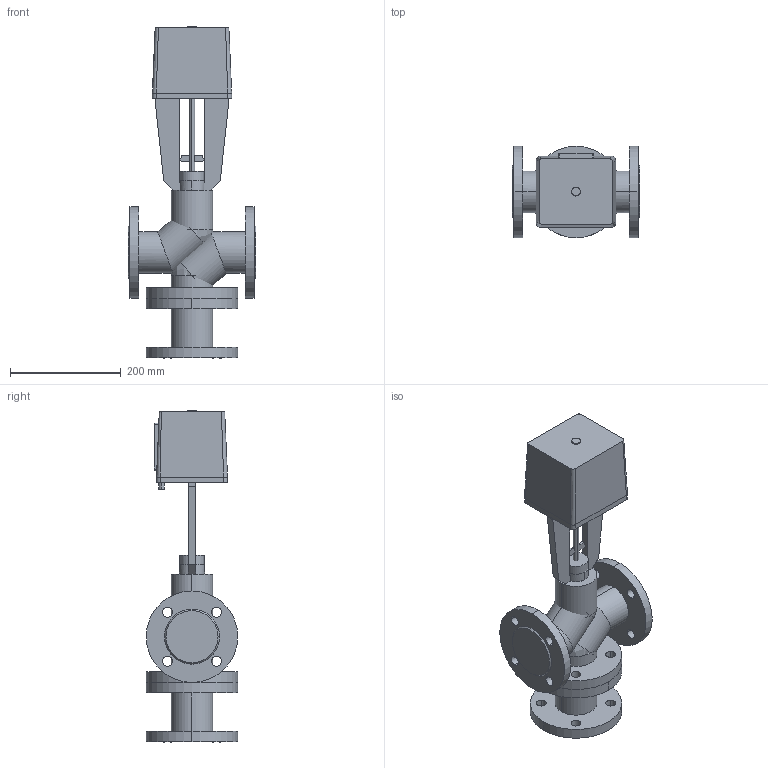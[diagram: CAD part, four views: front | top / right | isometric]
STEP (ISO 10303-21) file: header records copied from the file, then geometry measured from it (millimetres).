
FILE_DESCRIPTION(/* description */ (''),/* implementation_level */ '2;1');
FILE_NAME(/* name */ 'ТРК DN50 PN 2.5 МПа LEA 1200',/* time_stamp */ '2026-07-14T23:10:25+03:00',/* author */ (''),/* organization */ (''),/* preprocessor_version */ 'ST-DEVELOPER v20',/* originating_system */ '',/* authorisation */ '');
FILE_SCHEMA (('AP242_MANAGED_MODEL_BASED_3D_ENGINEERING_MIM_LF { 1 0 10303 442 1 1 4 }'));
Length unit declared in the file: millimetre
Products named in the file (17): TopLevelAssembly; Выдавливание; Модификатор; Модификатор_1; Выдавливание_
1; Выдавливание_
2; Вращение; Выдавливание_
3; Выдавливание_
4; Выдавливание_
5; Выдавливание_
6; Выдавливание_
7; 1600; Переход; Объемная геометрия 
присоединена; Полый Выдавливание; Объемная геометрия 
присоединена_1
Assembly tree (16 placements, depth 2):
  TopLevelAssembly
    Выдавливание
    Модификатор
    Модификатор_1
    Выдавливание_
1
    Выдавливание_
2
    Вращение
    Выдавливание_
3
    Выдавливание_
4
    Выдавливание_
5
    Выдавливание_
6
    Выдавливание_
7
    1600
    Переход
    Объемная геометрия 
присоединена
    Полый Выдавливание
    Объемная геометрия 
присоединена_1
Bounding box: 230 x 165 x 599 mm (x, y, z)
Volume: 6707947.3 mm3; surface area: 699850.4 mm2
Topology: 21 solids, 21 shells, 191 faces, 444 edges, 292 vertices
Faces by surface type: cylinder 96, plane 83, bspline 8, cone 4
Entity records: 6257 total; most frequent: CARTESIAN_POINT 1140, DIRECTION 1088, ORIENTED_EDGE 872, EDGE_CURVE 436, AXIS2_PLACEMENT_3D 436, VERTEX_POINT 292, EDGE_LOOP 246, LINE 216
